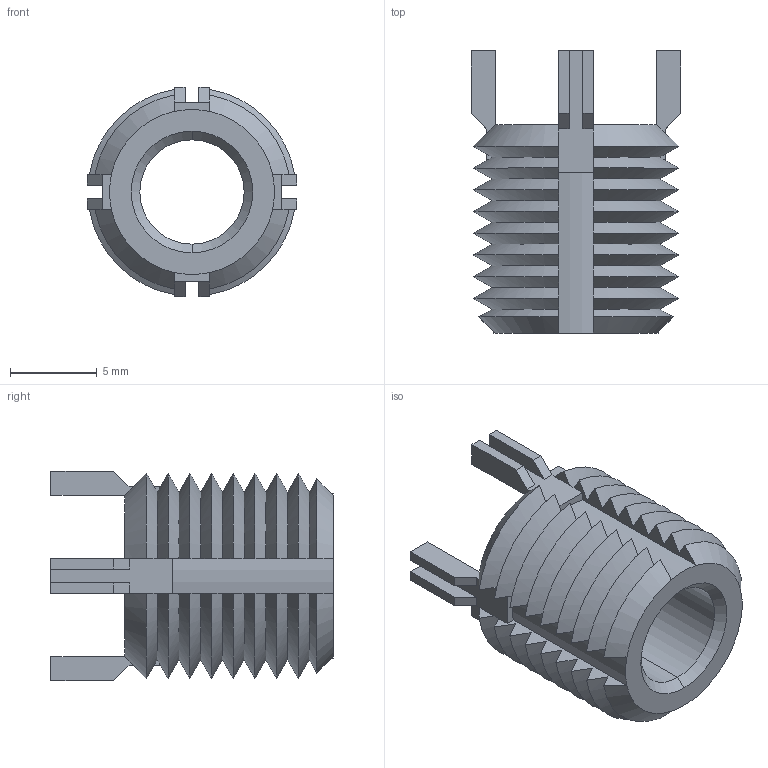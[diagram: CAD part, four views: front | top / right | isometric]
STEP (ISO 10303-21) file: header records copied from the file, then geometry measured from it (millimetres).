
FILE_DESCRIPTION (( 'STEP AP203' ), '1' );
FILE_NAME ('22002.W5650.step', '2023-03-20T19:27:29', ( '' ), ( '' ), 'SwSTEP 2.0', 'SolidWorks 2019', '' );
FILE_SCHEMA (( 'CONFIG_CONTROL_DESIGN' ));
Length unit declared in the file: millimetre
Products named in the file (1): 22002.W5650
Bounding box: 12.09 x 16.25 x 12.09 mm (x, y, z)
Volume: 747.9 mm3; surface area: 1204.6 mm2
Topology: 1 solids, 1 shells, 156 faces, 418 edges, 264 vertices
Faces by surface type: cone 76, plane 74, cylinder 6
Entity records: 5051 total; most frequent: CARTESIAN_POINT 1343, ORIENTED_EDGE 836, DIRECTION 656, EDGE_CURVE 418, VERTEX_POINT 264, AXIS2_PLACEMENT_3D 249, B_SPLINE_CURVE_WITH_KNOTS 168, LINE 158
